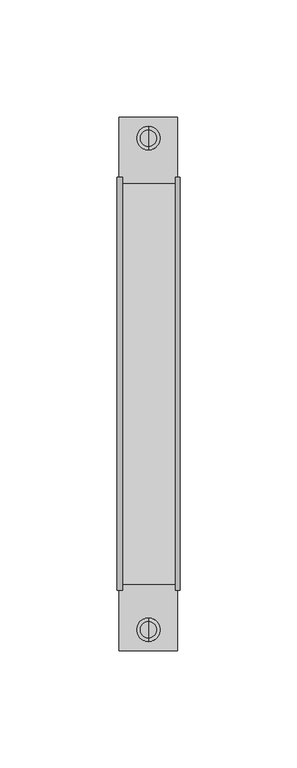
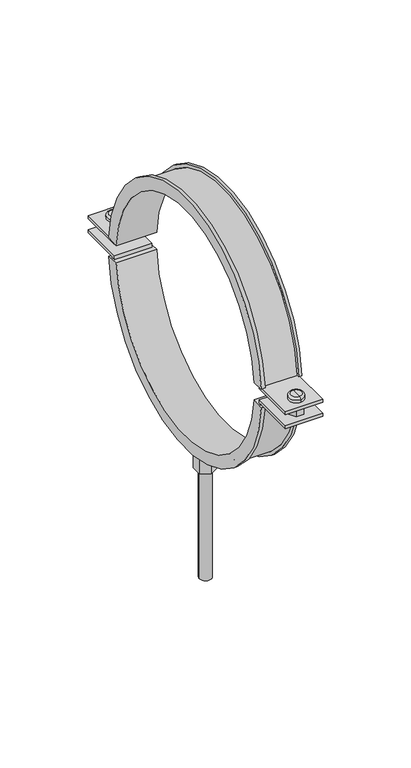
"""IFC4 building model written with IfcOpenShell, lengths in millimetres: pipe fitting geometry, NIRON abrazadera isofonica lisa : Estándard."""

from ifc_helpers import new_model, si_unit, point, frame, origin, origin_2d, place, context, project, spatial, polyline, circle_curve, ellipse_curve, trimmed, segment, composite_curve, outline, extrude, source, transform, mapped, element, save
from ifc_brep_helpers import plane_surface, cylinder_surface, revolved_surface, advanced_brep


def pipe_fitting_82d4a27c(model_context):
    return source(origin(), model_context, "Body", "SolidModel", [
        advanced_brep(
        [(0.0, 101.0, -7.8), (0.0, 101.0, -4.8), (0.0, 109.0, -4.8), (0.0, 109.0, -7.8), (0.0, 105.0, -7.8), (0.0, 105.0, -4.8)],
        [
            (0, 1),
            (1, 2, circle_curve(frame((0.0, 105.0, -4.8), z_axis=(0.0, 0.0, -1.0), x_axis=(0.0, 1.0, 0.0)), 4.0)),
            (2, 3),
            (3, 0, circle_curve(frame((0.0, 105.0, -7.8), z_axis=(0.0, 0.0, 1.0), x_axis=(0.0, 1.0, 0.0)), 4.0)),
            (2, 1, circle_curve(frame((0.0, 105.0, -4.8), z_axis=(0.0, 0.0, -1.0), x_axis=(0.0, 1.0, 0.0)), 4.0)),
            (0, 3, circle_curve(frame((0.0, 105.0, -7.8), z_axis=(0.0, 0.0, 1.0), x_axis=(0.0, 1.0, 0.0)), 4.0)),
            (4, 0),
            (3, 4),
            (1, 5),
            (5, 2),
        ],
        [
            cylinder_surface(frame((0.0, 105.0, -110.5332781), z_axis=(0.0, 0.0, -1.0), x_axis=(0.0, 1.0, 0.0)), 4.0),
            plane_surface(frame((0.0, 105.0, -7.8), z_axis=(0.0, 0.0, -1.0), x_axis=(0.0, 1.0, 0.0))),
            plane_surface(frame((0.0, 105.0, -4.8), z_axis=(0.0, 0.0, 1.0), x_axis=(0.0, 1.0, 0.0))),
        ],
        [
            (0, [[1, 2, 3, 4]]),
            (0, [[-3, 5, -1, 6]]),
            (1, [[7, -4, 8]]),
            (1, [[-8, -6, -7]]),
            (2, [[9, 10, -2]]),
            (2, [[-10, -9, -5]]),
        ],
    ),
        advanced_brep(
        [(0.0, 105.0, 4.8), (0.0, 100.0, 4.8), (0.0, 110.0, 4.8), (0.0, 100.0, 7.3), (0.0, 110.0, 7.3), (0.0, 101.5, 8.8), (0.0, 105.0, 8.8), (0.0, 108.5, 8.8)],
        [
            (0, 1),
            (1, 2, circle_curve(frame((0.0, 105.0, 4.8), z_axis=(0.0, 0.0, -1.0), x_axis=(0.0, 1.0, 0.0)), 5.0)),
            (2, 0),
            (2, 1, circle_curve(frame((0.0, 105.0, 4.8), z_axis=(0.0, 0.0, -1.0), x_axis=(0.0, 1.0, 0.0)), 5.0)),
            (1, 3),
            (3, 4, circle_curve(frame((0.0, 105.0, 7.3), z_axis=(0.0, 0.0, -1.0), x_axis=(0.0, 1.0, 0.0)), 5.0)),
            (4, 2),
            (4, 3, circle_curve(frame((0.0, 105.0, 7.3), z_axis=(0.0, 0.0, -1.0), x_axis=(0.0, 1.0, 0.0)), 5.0)),
            (5, 6),
            (6, 7),
            (7, 5, circle_curve(frame((0.0, 105.0, 8.8), z_axis=(0.0, 0.0, 1.0), x_axis=(0.0, 1.0, 0.0)), 3.5)),
            (5, 7, circle_curve(frame((0.0, 105.0, 8.8), z_axis=(0.0, 0.0, 1.0), x_axis=(0.0, 1.0, 0.0)), 3.5)),
            (3, 5, circle_curve(frame((0.0, 101.5, 7.3), z_axis=(-1.0, 0.0, 0.0), x_axis=(0.0, 1.0, 0.0)), 1.5)),
            (7, 4, circle_curve(frame((0.0, 108.5, 7.3), z_axis=(-1.0, 0.0, 0.0), x_axis=(0.0, -1.0, 0.0)), 1.5)),
        ],
        [
            plane_surface(frame((0.0, 105.0, 4.8), z_axis=(0.0, 0.0, -1.0), x_axis=(0.0, 1.0, 0.0))),
            cylinder_surface(frame((0.0, 105.0, 9.8), z_axis=(0.0, 0.0, -1.0), x_axis=(0.0, 1.0, 0.0)), 5.0),
            plane_surface(frame((0.0, 105.0, 8.8), z_axis=(0.0, 0.0, 1.0), x_axis=(0.0, 1.0, 0.0))),
            revolved_surface(trimmed(ellipse_curve(frame((0.0, 108.5, 7.3), z_axis=(-1.0, 0.0, 0.0), x_axis=(0.0, -1.0, 0.0)), 1.5, 1.5), [point((0.0, 108.5, 8.8))], [point((0.0, 110.0, 7.3))], True, "CARTESIAN"), (0.0, 105.0, 9.8), (0.0, 0.0, -1.0)),
        ],
        [
            (0, [[1, 2, 3]]),
            (0, [[-3, 4, -1]]),
            (1, [[5, 6, 7, -2]]),
            (1, [[-7, 8, -5, -4]]),
            (2, [[9, 10, 11]]),
            (2, [[-10, -9, 12]]),
            (3, [[13, -11, 14, -6]]),
            (3, [[-14, -12, -13, -8]]),
        ],
    ),
        advanced_brep(
        [(0.0, -101.0, -7.4875), (0.0, -109.0, -7.4875), (0.0, -109.0, -4.4875), (0.0, -101.0, -4.4875), (0.0, -105.0, -7.4875), (0.0, -105.0, -4.4875)],
        [
            (0, 1, circle_curve(frame((0.0, -105.0, -7.4875), z_axis=(0.0, 0.0, 1.0), x_axis=(0.0, -1.0, 0.0)), 4.0)),
            (1, 2),
            (2, 3, circle_curve(frame((0.0, -105.0, -4.4875), z_axis=(0.0, 0.0, -1.0), x_axis=(0.0, -1.0, 0.0)), 4.0)),
            (3, 0),
            (1, 0, circle_curve(frame((0.0, -105.0, -7.4875), z_axis=(0.0, 0.0, 1.0), x_axis=(0.0, -1.0, 0.0)), 4.0)),
            (3, 2, circle_curve(frame((0.0, -105.0, -4.4875), z_axis=(0.0, 0.0, -1.0), x_axis=(0.0, -1.0, 0.0)), 4.0)),
            (4, 1),
            (0, 4),
            (2, 5),
            (5, 3),
        ],
        [
            cylinder_surface(frame((0.0, -105.0, -110.2207781), z_axis=(0.0, 0.0, -1.0), x_axis=(0.0, -1.0, 0.0)), 4.0),
            plane_surface(frame((0.0, -105.0, -7.4875), z_axis=(0.0, 0.0, -1.0), x_axis=(0.0, -1.0, 0.0))),
            plane_surface(frame((0.0, -105.0, -4.4875), z_axis=(0.0, 0.0, 1.0), x_axis=(0.0, -1.0, 0.0))),
        ],
        [
            (0, [[1, 2, 3, 4]]),
            (0, [[5, -4, 6, -2]]),
            (1, [[7, -1, 8]]),
            (1, [[-8, -5, -7]]),
            (2, [[-3, 9, 10]]),
            (2, [[-6, -10, -9]]),
        ],
    ),
        advanced_brep(
        [(0.0, -105.0, 5.1125), (0.0, -110.0, 5.1125), (0.0, -100.0, 5.1125), (0.0, -110.0, 7.6125), (0.0, -100.0, 7.6125), (0.0, -101.5, 9.1125), (0.0, -108.5, 9.1125), (0.0, -105.0, 9.1125)],
        [
            (0, 1),
            (1, 2, circle_curve(frame((0.0, -105.0, 5.1125), z_axis=(0.0, 0.0, -1.0), x_axis=(0.0, -1.0, 0.0)), 5.0)),
            (2, 0),
            (2, 1, circle_curve(frame((0.0, -105.0, 5.1125), z_axis=(0.0, 0.0, -1.0), x_axis=(0.0, -1.0, 0.0)), 5.0)),
            (1, 3),
            (3, 4, circle_curve(frame((0.0, -105.0, 7.6125), z_axis=(0.0, 0.0, -1.0), x_axis=(0.0, -1.0, 0.0)), 5.0)),
            (4, 2),
            (4, 3, circle_curve(frame((0.0, -105.0, 7.6125), z_axis=(0.0, 0.0, -1.0), x_axis=(0.0, -1.0, 0.0)), 5.0)),
            (5, 6, circle_curve(frame((0.0, -105.0, 9.1125), z_axis=(0.0, 0.0, 1.0), x_axis=(0.0, -1.0, 0.0)), 3.5)),
            (6, 7),
            (7, 5),
            (6, 5, circle_curve(frame((0.0, -105.0, 9.1125), z_axis=(0.0, 0.0, 1.0), x_axis=(0.0, -1.0, 0.0)), 3.5)),
            (3, 6, circle_curve(frame((0.0, -108.5, 7.6125), z_axis=(-1.0, 0.0, 0.0), x_axis=(0.0, 1.0, 0.0)), 1.5)),
            (5, 4, circle_curve(frame((0.0, -101.5, 7.6125), z_axis=(-1.0, 0.0, 0.0), x_axis=(0.0, -1.0, 0.0)), 1.5)),
        ],
        [
            plane_surface(frame((0.0, -105.0, 5.1125), z_axis=(0.0, 0.0, -1.0), x_axis=(0.0, -1.0, 0.0))),
            cylinder_surface(frame((0.0, -105.0, 10.1125), z_axis=(0.0, 0.0, -1.0), x_axis=(0.0, -1.0, 0.0)), 5.0),
            plane_surface(frame((0.0, -105.0, 9.1125), z_axis=(0.0, 0.0, 1.0), x_axis=(0.0, -1.0, 0.0))),
            revolved_surface(trimmed(ellipse_curve(frame((0.0, -108.5, 7.6125), z_axis=(1.0, 0.0, 0.0), x_axis=(0.0, 1.0, 0.0)), 1.5, 1.5), [point((0.0, -108.5, 9.1125))], [point((0.0, -110.0, 7.6125))], True, "CARTESIAN"), (0.0, -105.0, 10.1125), (0.0, 0.0, -1.0)),
        ],
        [
            (0, [[1, 2, 3]]),
            (0, [[-3, 4, -1]]),
            (1, [[-2, 5, 6, 7]]),
            (1, [[-4, -7, 8, -5]]),
            (2, [[9, 10, 11]]),
            (2, [[12, -11, -10]]),
            (3, [[-6, 13, -9, 14]]),
            (3, [[-8, -14, -12, -13]]),
        ],
    ),
        extrude(outline(polyline([(2.5, 100.669873), (-2.5, 100.669873), (-5.0, 105.0), (-2.5, 109.330127), (2.5, 109.330127), (5.0, 105.0), (2.5, 100.669873)])), frame((0.0, 0.0, -4.0), z_axis=(0.0, 0.0, 1.0), x_axis=(1.0, 0.0, 0.0)), (0.0, 0.0, 1.0), 8.0),
        extrude(outline(polyline([(2.5, -100.669873), (5.0, -105.0), (2.5, -109.330127), (-2.5, -109.330127), (-5.0, -105.0), (-2.5, -100.669873), (2.5, -100.669873)])), frame((0.0, 0.0, -4.0), z_axis=(0.0, 0.0, 1.0), x_axis=(1.0, 0.0, 0.0)), (0.0, 0.0, 1.0), 8.0),
        advanced_brep(
        [(13.5, -79.7782012, 6.0), (13.5, -88.2047737, 6.6287892), (11.5, -88.2047737, 6.6287892), (11.5, -86.2103187, 6.4799634), (12.5, -86.2103187, 6.4799634), (12.5, -84.2158636, 6.3311375), (-12.5, -84.2158636, 6.3311375), (-12.5, -86.2103187, 6.4799634), (-11.0466338, -86.2103187, 6.4799634), (-11.0466338, -88.2047737, 6.6287892), (-13.5, -88.2047737, 6.6287892), (-13.5, -79.7782012, 6.0), (13.5, 79.7782012, 6.0), (-13.5, 79.7782012, 6.0), (-13.5, 88.2047737, 6.6287892), (-11.0466338, 88.2047737, 6.6287892), (-11.0466338, 86.2103187, 6.4799634), (-12.5, 86.2103187, 6.4799634), (-12.5, 84.2158636, 6.3311375), (12.5, 84.2158636, 6.3311375), (12.5, 86.2103187, 6.4799634), (11.5, 86.2103187, 6.4799634), (11.5, 88.2047737, 6.6287892), (13.5, 88.2047737, 6.6287892)],
        [
            (0, 1),
            (1, 2),
            (2, 3),
            (3, 4),
            (4, 5),
            (5, 6),
            (6, 7),
            (7, 8),
            (8, 9),
            (9, 10),
            (10, 11),
            (11, 0),
            (12, 13),
            (13, 14),
            (14, 15),
            (15, 16),
            (16, 17),
            (17, 18),
            (18, 19),
            (19, 20),
            (20, 21),
            (21, 22),
            (22, 23),
            (23, 12),
            (12, 0, circle_curve(frame((13.5, 0.0, 0.0469661), z_axis=(1.0, 0.0, 0.0), x_axis=(0.0, -0.9972275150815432, 0.07441292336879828)), 80.0)),
            (11, 13, circle_curve(frame((-13.5, 0.0, 0.0469661), z_axis=(-1.0, 0.0, 0.0), x_axis=(0.0, -0.9972275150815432, 0.07441292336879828)), 80.0)),
            (10, 14, circle_curve(frame((-13.5, 0.0, 0.0469661), z_axis=(-1.0, 0.0, 0.0), x_axis=(0.0, -0.9972275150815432, 0.07441292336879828)), 88.45)),
            (9, 15, circle_curve(frame((-11.0466338, 0.0, 0.0469661), z_axis=(-1.0, 0.0, 0.0), x_axis=(0.0, -0.9972275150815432, 0.07441292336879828)), 88.45)),
            (8, 16, circle_curve(frame((-11.0466338, 0.0, 0.0469661), z_axis=(-1.0, 0.0, 0.0), x_axis=(0.0, -0.9972275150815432, 0.07441292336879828)), 86.45)),
            (7, 17, circle_curve(frame((-12.5, 0.0, 0.0469661), z_axis=(-1.0, 0.0, 0.0), x_axis=(0.0, -0.9972275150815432, 0.07441292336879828)), 86.45)),
            (6, 18, circle_curve(frame((-12.5, 0.0, 0.0469661), z_axis=(-1.0, 0.0, 0.0), x_axis=(0.0, -0.9972275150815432, 0.07441292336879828)), 84.45)),
            (5, 19, circle_curve(frame((12.5, 0.0, 0.0469661), z_axis=(-1.0, 0.0, 0.0), x_axis=(0.0, -0.9972275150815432, 0.07441292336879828)), 84.45)),
            (4, 20, circle_curve(frame((12.5, 0.0, 0.0469661), z_axis=(-1.0, 0.0, 0.0), x_axis=(0.0, -0.9972275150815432, 0.07441292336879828)), 86.45)),
            (3, 21, circle_curve(frame((11.5, 0.0, 0.0469661), z_axis=(-1.0, 0.0, 0.0), x_axis=(0.0, -0.9972275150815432, 0.07441292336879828)), 86.45)),
            (2, 22, circle_curve(frame((11.5, 0.0, 0.0469661), z_axis=(-1.0, 0.0, 0.0), x_axis=(0.0, -0.9972275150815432, 0.07441292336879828)), 88.45)),
            (1, 23, circle_curve(frame((13.5, 0.0, 0.0469661), z_axis=(-1.0, 0.0, 0.0), x_axis=(0.0, -0.9972275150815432, 0.07441292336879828)), 88.45)),
        ],
        [
            plane_surface(frame((0.0, -79.7782012, 6.0), z_axis=(0.0, -0.07441292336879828, -0.9972275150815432), x_axis=(1.0, 0.0, 0.0))),
            plane_surface(frame((0.0, 79.7782012, 6.0), z_axis=(0.0, 0.07441292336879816, -0.9972275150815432), x_axis=(1.0, 0.0, 0.0))),
            revolved_surface(polyline([(-13.5, -79.77820120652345, 5.999999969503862), (13.5, -79.77820120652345, 5.999999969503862)]), (0.0, 0.0, 0.0469661), (-1.0, 0.0, 0.0)),
            plane_surface(frame((-13.5, 0.0, 0.0469661), z_axis=(-1.0, 0.0, 0.0), x_axis=(0.0, -0.9972275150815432, 0.07441292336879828))),
            cylinder_surface(frame((0.0, 0.0, 0.0469661), z_axis=(-1.0, 0.0, 0.0), x_axis=(0.0, -0.9972275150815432, 0.07441292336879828)), 88.45),
            plane_surface(frame((-11.0466338, 0.0, 0.0469661), z_axis=(1.0, 0.0, 0.0), x_axis=(0.0, -0.9972275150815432, 0.07441292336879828))),
            revolved_surface(polyline([(-12.5, -86.21031867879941, 6.479963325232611), (-11.0466338, -86.21031867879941, 6.479963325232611)]), (0.0, 0.0, 0.0469661), (-1.0, 0.0, 0.0)),
            plane_surface(frame((-12.5, 0.0, 0.0469661), z_axis=(1.0, 0.0, 0.0), x_axis=(0.0, -0.9972275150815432, 0.07441292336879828))),
            cylinder_surface(frame((0.0, 0.0, 0.0469661), z_axis=(-1.0, 0.0, 0.0), x_axis=(0.0, -0.9972275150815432, 0.07441292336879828)), 84.45),
            plane_surface(frame((12.5, 0.0, 0.0469661), z_axis=(-1.0, 0.0, 0.0), x_axis=(0.0, -0.9972275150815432, 0.07441292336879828))),
            revolved_surface(polyline([(11.5, -86.21031867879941, 6.479963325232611), (12.5, -86.21031867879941, 6.479963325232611)]), (0.0, 0.0, 0.0469661), (-1.0, 0.0, 0.0)),
            plane_surface(frame((11.5, 0.0, 0.0469661), z_axis=(-1.0, 0.0, 0.0), x_axis=(0.0, -0.9972275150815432, 0.07441292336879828))),
            plane_surface(frame((13.5, 0.0, 0.0469661), z_axis=(1.0, 0.0, 0.0), x_axis=(0.0, -0.9972275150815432, 0.07441292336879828))),
        ],
        [
            (0, [[1, 2, 3, 4, 5, 6, 7, 8, 9, 10, 11, 12]]),
            (1, [[13, 14, 15, 16, 17, 18, 19, 20, 21, 22, 23, 24]]),
            (2, [[25, -12, 26, -13]]),
            (3, [[-26, -11, 27, -14]]),
            (4, [[-27, -10, 28, -15]]),
            (5, [[-28, -9, 29, -16]]),
            (6, [[-29, -8, 30, -17]]),
            (7, [[-30, -7, 31, -18]]),
            (8, [[-31, -6, 32, -19]]),
            (9, [[-32, -5, 33, -20]]),
            (10, [[-33, -4, 34, -21]]),
            (11, [[-34, -3, 35, -22]]),
            (4, [[-35, -2, 36, -23]]),
            (12, [[-36, -1, -25, -24]]),
        ],
    ),
        extrude(outline(composite_curve([segment(trimmed(circle_curve(origin_2d(), 84.0), [point((-83.9047079, -4.0))], [point((83.9047079, -4.0))], True, "CARTESIAN"), True, "CONTINUOUS"), segment(polyline([(83.9047079, -4.0), (114.0, -4.0), (114.0, -6.0), (85.7904424, -6.0)]), True, "CONTINUOUS"), segment(trimmed(circle_curve(origin_2d(), 86.0), [point((85.7904424, -6.0))], [point((-85.7904424, -6.0))], False, "CARTESIAN"), True, "CONTINUOUS"), segment(polyline([(-85.7904424, -6.0), (-114.0, -6.0), (-114.0, -4.0), (-83.9047079, -4.0)]), True, "CONTINUOUS")], self_intersect=False)), frame((-12.5, 0.0, 0.0), z_axis=(1.0, 0.0, 0.0), x_axis=(0.0, 1.0, 0.0)), (0.0, 0.0, 1.0), 25.0),
        advanced_brep(
        [(13.5, -79.7746827, -6.0), (-13.5, -79.7746827, -6.0), (-13.5, -88.2008836, -6.63375), (-11.0466338, -88.2008836, -6.63375), (-11.0466338, -86.2065165, -6.48375), (-12.5, -86.2065165, -6.48375), (-12.5, -84.2121494, -6.33375), (12.5, -84.2121494, -6.33375), (12.5, -86.2065165, -6.48375), (11.5, -86.2065165, -6.48375), (11.5, -88.2008836, -6.63375), (13.5, -88.2008836, -6.63375), (13.5, 79.7746827, -6.0), (13.5, 88.2008836, -6.63375), (11.5, 88.2008836, -6.63375), (11.5, 86.2065165, -6.48375), (12.5, 86.2065165, -6.48375), (12.5, 84.2121494, -6.33375), (-12.5, 84.2121494, -6.33375), (-12.5, 86.2065165, -6.48375), (-11.0466338, 86.2065165, -6.48375), (-11.0466338, 88.2008836, -6.63375), (-13.5, 88.2008836, -6.63375), (-13.5, 79.7746827, -6.0)],
        [
            (0, 1),
            (1, 2),
            (2, 3),
            (3, 4),
            (4, 5),
            (5, 6),
            (6, 7),
            (7, 8),
            (8, 9),
            (9, 10),
            (10, 11),
            (11, 0),
            (12, 13),
            (13, 14),
            (14, 15),
            (15, 16),
            (16, 17),
            (17, 18),
            (18, 19),
            (19, 20),
            (20, 21),
            (21, 22),
            (22, 23),
            (23, 12),
            (23, 1, circle_curve(frame((-13.5, 0.0, 0.0), z_axis=(-1.0, 0.0, 0.0), x_axis=(0.0, -0.9971835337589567, -0.07499999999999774)), 80.0)),
            (0, 12, circle_curve(frame((13.5, 0.0, 0.0), z_axis=(1.0, 0.0, 0.0), x_axis=(0.0, -0.9971835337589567, -0.07499999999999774)), 80.0)),
            (22, 2, circle_curve(frame((-13.5, 0.0, 0.0), z_axis=(-1.0, 0.0, 0.0), x_axis=(0.0, -0.9971835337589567, -0.07499999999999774)), 88.45)),
            (21, 3, circle_curve(frame((-11.0466338, 0.0, 0.0), z_axis=(-1.0, 0.0, 0.0), x_axis=(0.0, -0.9971835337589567, -0.07499999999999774)), 88.45)),
            (20, 4, circle_curve(frame((-11.0466338, 0.0, 0.0), z_axis=(-1.0, 0.0, 0.0), x_axis=(0.0, -0.9971835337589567, -0.07499999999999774)), 86.45)),
            (19, 5, circle_curve(frame((-12.5, 0.0, 0.0), z_axis=(-1.0, 0.0, 0.0), x_axis=(0.0, -0.9971835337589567, -0.07499999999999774)), 86.45)),
            (18, 6, circle_curve(frame((-12.5, 0.0, 0.0), z_axis=(-1.0, 0.0, 0.0), x_axis=(0.0, -0.9971835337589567, -0.07499999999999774)), 84.45)),
            (17, 7, circle_curve(frame((12.5, 0.0, 0.0), z_axis=(-1.0, 0.0, 0.0), x_axis=(0.0, -0.9971835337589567, -0.07499999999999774)), 84.45)),
            (16, 8, circle_curve(frame((12.5, 0.0, 0.0), z_axis=(-1.0, 0.0, 0.0), x_axis=(0.0, -0.9971835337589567, -0.07499999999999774)), 86.45)),
            (15, 9, circle_curve(frame((11.5, 0.0, 0.0), z_axis=(-1.0, 0.0, 0.0), x_axis=(0.0, -0.9971835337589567, -0.07499999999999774)), 86.45)),
            (14, 10, circle_curve(frame((11.5, 0.0, 0.0), z_axis=(-1.0, 0.0, 0.0), x_axis=(0.0, -0.9971835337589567, -0.07499999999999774)), 88.45)),
            (13, 11, circle_curve(frame((13.5, 0.0, 0.0), z_axis=(-1.0, 0.0, 0.0), x_axis=(0.0, -0.9971835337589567, -0.07499999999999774)), 88.45)),
        ],
        [
            plane_surface(frame((0.0, -79.7746827, -6.0), z_axis=(0.0, -0.07499999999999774, 0.9971835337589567), x_axis=(1.0, 0.0, 0.0))),
            plane_surface(frame((0.0, 79.7746827, -6.0), z_axis=(0.0, 0.07499999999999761, 0.9971835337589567), x_axis=(1.0, 0.0, 0.0))),
            revolved_surface(polyline([(13.5, -79.77468270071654, -5.999999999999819), (-13.5, -79.77468270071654, -5.999999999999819)]), (0.0, 0.0, 0.0), (1.0, 0.0, 0.0)),
            plane_surface(frame((-13.5, 0.0, 0.0), z_axis=(-1.0000000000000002, 0.0, 0.0), x_axis=(0.0, -0.9971835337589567, -0.07499999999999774))),
            cylinder_surface(frame((0.0, 0.0, 0.0), z_axis=(1.0, 0.0, 0.0), x_axis=(0.0, -0.9971835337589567, -0.07499999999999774)), 88.45),
            plane_surface(frame((-11.0466338, 0.0, 0.0), z_axis=(1.0000000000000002, 0.0, 0.0), x_axis=(0.0, -0.9971835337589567, -0.07499999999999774))),
            revolved_surface(polyline([(-11.0466338, -86.20651649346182, -6.483749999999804), (-12.5, -86.20651649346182, -6.483749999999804)]), (0.0, 0.0, 0.0), (1.0, 0.0, 0.0)),
            plane_surface(frame((-12.5, 0.0, 0.0), z_axis=(1.0000000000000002, 0.0, 0.0), x_axis=(0.0, -0.9971835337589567, -0.07499999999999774))),
            cylinder_surface(frame((0.0, 0.0, 0.0), z_axis=(1.0, 0.0, 0.0), x_axis=(0.0, -0.9971835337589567, -0.07499999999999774)), 84.45),
            plane_surface(frame((12.5, 0.0, 0.0), z_axis=(-1.0000000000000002, 0.0, 0.0), x_axis=(0.0, -0.9971835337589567, -0.07499999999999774))),
            revolved_surface(polyline([(12.5, -86.20651649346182, -6.483749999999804), (11.5, -86.20651649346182, -6.483749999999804)]), (0.0, 0.0, 0.0), (1.0, 0.0, 0.0)),
            plane_surface(frame((11.5, 0.0, 0.0), z_axis=(-1.0000000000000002, 0.0, 0.0), x_axis=(0.0, -0.9971835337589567, -0.07499999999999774))),
            plane_surface(frame((13.5, 0.0, 0.0), z_axis=(1.0000000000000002, 0.0, 0.0), x_axis=(0.0, -0.9971835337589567, -0.07499999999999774))),
        ],
        [
            (0, [[1, 2, 3, 4, 5, 6, 7, 8, 9, 10, 11, 12]]),
            (1, [[13, 14, 15, 16, 17, 18, 19, 20, 21, 22, 23, 24]]),
            (2, [[25, -1, 26, -24]]),
            (3, [[27, -2, -25, -23]]),
            (4, [[28, -3, -27, -22]]),
            (5, [[29, -4, -28, -21]]),
            (6, [[30, -5, -29, -20]]),
            (7, [[31, -6, -30, -19]]),
            (8, [[32, -7, -31, -18]]),
            (9, [[33, -8, -32, -17]]),
            (10, [[34, -9, -33, -16]]),
            (11, [[35, -10, -34, -15]]),
            (4, [[36, -11, -35, -14]]),
            (12, [[-26, -12, -36, -13]]),
        ],
    ),
        extrude(outline(composite_curve([segment(trimmed(circle_curve(origin_2d(), 86.0), [point((-85.7904424, 6.0))], [point((85.7904424, 6.0))], False, "CARTESIAN"), True, "CONTINUOUS"), segment(polyline([(85.7904424, 6.0), (114.0, 6.0), (114.0, 4.0), (83.9047079, 4.0)]), True, "CONTINUOUS"), segment(trimmed(circle_curve(origin_2d(), 84.0), [point((83.9047079, 4.0))], [point((-83.9047079, 4.0))], True, "CARTESIAN"), True, "CONTINUOUS"), segment(polyline([(-83.9047079, 4.0), (-114.0, 4.0), (-114.0, 6.0), (-85.7904424, 6.0)]), True, "CONTINUOUS")], self_intersect=False)), frame((-12.5, 0.0, 0.0), z_axis=(1.0, 0.0, 0.0), x_axis=(0.0, 1.0, 0.0)), (0.0, 0.0, 1.0), 25.0),
        extrude(outline(composite_curve([segment(trimmed(circle_curve(origin_2d(), 4.0), [point((-4.0, 0.0))], [point((4.0, 0.0))], False, "CARTESIAN"), True, "CONTINUOUS"), segment(trimmed(circle_curve(origin_2d(), 4.0), [point((4.0, 0.0))], [point((-4.0, 0.0))], False, "CARTESIAN"), True, "CONTINUOUS")], self_intersect=False)), frame((0.0, 0.0, -184.0), z_axis=(0.0, 0.0, 1.0), x_axis=(1.0, 0.0, 0.0)), (0.0, 0.0, 1.0), 100.0),
        extrude(outline(polyline([(-6.0621778, 3.5), (0.0, 7.0), (6.0621778, 3.5), (6.0621778, -3.5), (0.0, -7.0), (-6.0621778, -3.5), (-6.0621778, 3.5)])), frame((0.0, 0.0, -107.0), z_axis=(0.0, 0.0, 1.0), x_axis=(1.0, 0.0, 0.0)), (0.0, 0.0, 1.0), 23.0),
    ])


if __name__ == "__main__":
    model = new_model("IFC4")
    model_context = context("Model", 3, world=origin())
    ifc_project = project(units=[si_unit("LENGTHUNIT", "METRE", prefix="MILLI")], contexts=[model_context])
    site = spatial("IfcSite", under=ifc_project)
    building = spatial("IfcBuilding", under=site)
    placement = place(None, origin())
    pipe_fitting_shape = pipe_fitting_82d4a27c(model_context)
    element("IfcPipeFitting", 1, ObjectType="NIRON abrazadera isofonica lisa : Estándard", at=placement, inside=building, context=model_context, shape_type="MappedRepresentation", body=[
        mapped(pipe_fitting_shape, transform((0.0, 0.0, 0.0), x_axis=(1.0, 0.0, 0.0), y_axis=(0.0, 1.0, 0.0), z_axis=(0.0, 0.0, 1.0))),
    ])
    save(model, "model.ifc")
